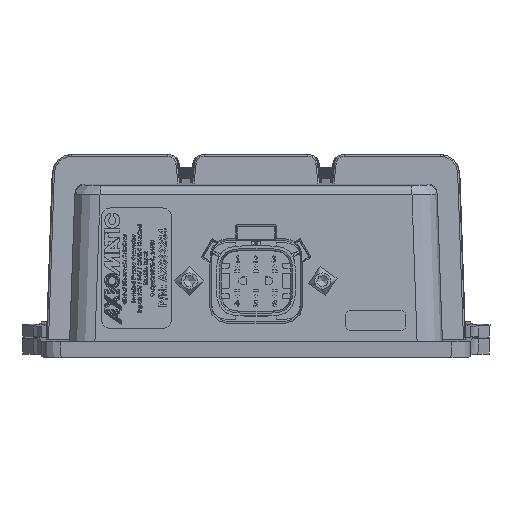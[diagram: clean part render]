
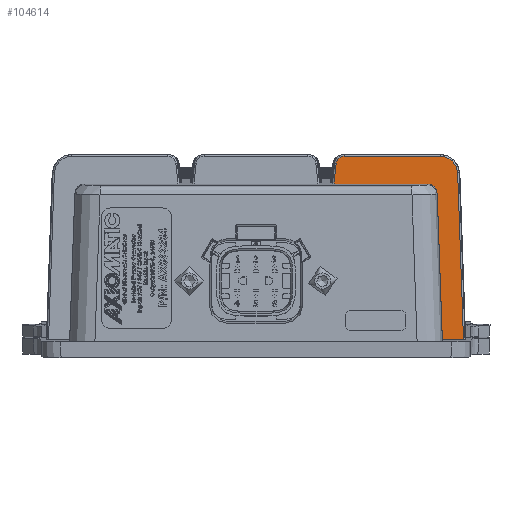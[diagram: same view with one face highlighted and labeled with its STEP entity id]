
A CAD part, top view. The second image highlights one B-rep face of the part: STEP entity #104614.
In plain terms, the highlighted planar face has unit normal (0, -0.009, 1).
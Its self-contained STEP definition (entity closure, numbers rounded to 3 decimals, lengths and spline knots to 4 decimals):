
#2092=ELLIPSE('',#112746,0.2166,0.2165);
#2094=ELLIPSE('',#112751,0.0985,0.0984);
#2104=ELLIPSE('',#112850,0.1182,0.1181);
#13985=PLANE('',#112849);
#19585=FACE_OUTER_BOUND('',#25771,.T.);
#25771=EDGE_LOOP('',(#96247,#96248,#96249,#96250,#96251,#96252,#96253,#96254,
#96255));
#32375=LINE('',#184240,#40936);
#32621=LINE('',#186075,#41182);
#34354=LINE('',#206603,#42915);
#34355=LINE('',#206643,#42916);
#34357=LINE('',#206676,#42918);
#34449=LINE('',#206873,#43010);
#40936=VECTOR('',#128422,0.3937);
#41182=VECTOR('',#129218,0.3937);
#42915=VECTOR('',#137163,0.3937);
#42916=VECTOR('',#137174,0.3937);
#42918=VECTOR('',#137184,0.3937);
#43010=VECTOR('',#137470,0.3937);
#51521=VERTEX_POINT('',#184236);
#51523=VERTEX_POINT('',#184239);
#51937=VERTEX_POINT('',#186072);
#51938=VERTEX_POINT('',#186074);
#54234=VERTEX_POINT('',#206601);
#54236=VERTEX_POINT('',#206635);
#54238=VERTEX_POINT('',#206641);
#54240=VERTEX_POINT('',#206671);
#54248=VERTEX_POINT('',#206871);
#63977=EDGE_CURVE('',#51521,#51523,#32375,.T.);
#64466=EDGE_CURVE('',#51937,#51938,#32621,.T.);
#68357=EDGE_CURVE('',#54234,#51521,#34354,.T.);
#68359=EDGE_CURVE('',#54236,#54234,#2092,.T.);
#68362=EDGE_CURVE('',#54238,#54236,#34355,.T.);
#68365=EDGE_CURVE('',#54240,#54238,#2094,.T.);
#68367=EDGE_CURVE('',#51938,#54240,#34357,.T.);
#68467=EDGE_CURVE('',#54248,#51937,#2104,.F.);
#68468=EDGE_CURVE('',#51523,#54248,#34449,.F.);
#96247=ORIENTED_EDGE('',*,*,#68367,.F.);
#96248=ORIENTED_EDGE('',*,*,#64466,.F.);
#96249=ORIENTED_EDGE('',*,*,#68467,.F.);
#96250=ORIENTED_EDGE('',*,*,#68468,.F.);
#96251=ORIENTED_EDGE('',*,*,#63977,.F.);
#96252=ORIENTED_EDGE('',*,*,#68357,.F.);
#96253=ORIENTED_EDGE('',*,*,#68359,.F.);
#96254=ORIENTED_EDGE('',*,*,#68362,.F.);
#96255=ORIENTED_EDGE('',*,*,#68365,.F.);
#104614=ADVANCED_FACE('',(#19585),#13985,.F.);
#112746=AXIS2_PLACEMENT_3D('',#206637,#137166,#137167);
#112751=AXIS2_PLACEMENT_3D('',#206673,#137178,#137179);
#112849=AXIS2_PLACEMENT_3D('',#206870,#137466,#137467);
#112850=AXIS2_PLACEMENT_3D('',#206872,#137468,#137469);
#128422=DIRECTION('',(-1.,0.,0.));
#129218=DIRECTION('',(-1.,0.,0.));
#137163=DIRECTION('',(0.035,-0.999,-0.009));
#137166=DIRECTION('center_axis',(0.,0.009,
-1.));
#137167=DIRECTION('ref_axis',(0.,1.,0.009));
#137174=DIRECTION('',(1.,0.,0.));
#137178=DIRECTION('center_axis',(0.,0.009,
-1.));
#137179=DIRECTION('ref_axis',(0.,1.,0.009));
#137184=DIRECTION('',(0.104,0.994,0.009));
#137466=DIRECTION('center_axis',(0.,0.009,
-1.));
#137467=DIRECTION('ref_axis',(1.,0.,0.));
#137468=DIRECTION('center_axis',(0.,0.009,
-1.));
#137469=DIRECTION('ref_axis',(0.,1.,0.009));
#137470=DIRECTION('',(0.035,-0.999,-0.009));
#184236=CARTESIAN_POINT('',(2.5663,-1.6757,3.1227));
#184239=CARTESIAN_POINT('',(2.3048,-1.6757,3.1227));
#184240=CARTESIAN_POINT('',(2.586,-1.6757,3.1227));
#186072=CARTESIAN_POINT('',(2.1234,0.2529,3.1396));
#186074=CARTESIAN_POINT('',(0.9646,0.2529,3.1396));
#186075=CARTESIAN_POINT('',(0.,0.2529,3.1396));
#206601=CARTESIAN_POINT('',(2.4942,0.39,3.1408));
#206603=CARTESIAN_POINT('',(2.5372,-0.8427,3.13));
#206635=CARTESIAN_POINT('',(2.2778,0.599,3.1426));
#206637=CARTESIAN_POINT('Origin',(2.2778,0.3824,3.1407));
#206641=CARTESIAN_POINT('',(1.0896,0.599,3.1426));
#206643=CARTESIAN_POINT('',(0.,0.599,3.1426));
#206671=CARTESIAN_POINT('',(0.9917,0.5109,3.1419));
#206673=CARTESIAN_POINT('Origin',(1.0896,0.5006,3.1418));
#206676=CARTESIAN_POINT('',(0.9601,0.2095,3.1392));
#206870=CARTESIAN_POINT('Origin',(0.,-0.099,
3.1365));
#206871=CARTESIAN_POINT('',(2.2415,0.1389,3.1386));
#206872=CARTESIAN_POINT('Origin',(2.1234,0.1347,3.1386));
#206873=CARTESIAN_POINT('',(2.2442,0.0619,3.1379));
